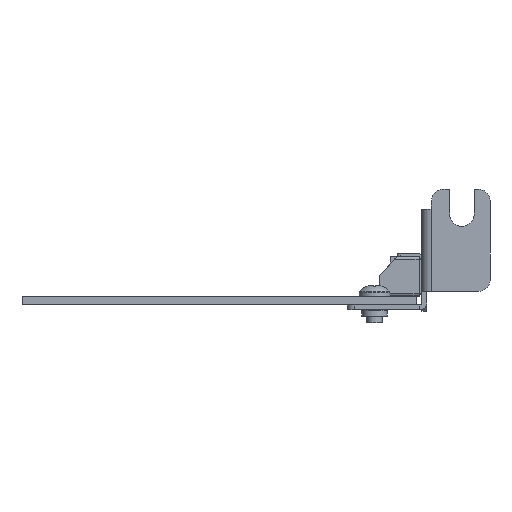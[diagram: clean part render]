
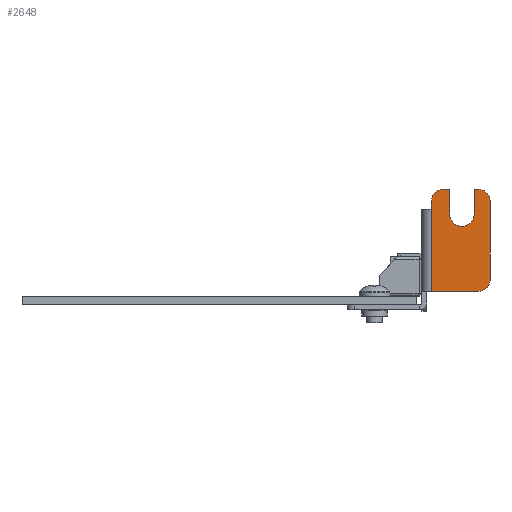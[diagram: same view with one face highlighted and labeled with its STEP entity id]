
A CAD part, front view. The second image highlights one B-rep face of the part: STEP entity #2648.
In plain terms, the highlighted planar face has unit normal (0, -1, 0).
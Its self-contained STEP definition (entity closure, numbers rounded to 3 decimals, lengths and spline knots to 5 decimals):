
#1116=CARTESIAN_POINT('',(0.445,-2.537,0.176));
#1117=DIRECTION('',(0.,-1.,0.));
#1118=DIRECTION('',(0.,0.,-1.));
#1119=AXIS2_PLACEMENT_3D('',#1116,#1117,#1118);
#1175=CARTESIAN_POINT('',(0.189,-2.537,0.741));
#1176=DIRECTION('',(0.,-1.,0.));
#1177=DIRECTION('',(0.,0.,1.));
#1178=AXIS2_PLACEMENT_3D('',#1175,#1176,#1177);
#1184=DIRECTION('',(-1.,0.,0.));
#1185=VECTOR('',#1184,0.049);
#1186=CARTESIAN_POINT('',(0.238,-2.537,0.821));
#1187=LINE('',#1186,#1185);
#1188=DIRECTION('',(-1.,0.,0.));
#1189=VECTOR('',#1188,0.033);
#1190=CARTESIAN_POINT('',(0.445,-2.537,0.821));
#1191=LINE('',#1190,#1189);
#1204=DIRECTION('',(-1.,0.,0.));
#1205=VECTOR('',#1204,0.336);
#1206=CARTESIAN_POINT('',(0.445,-2.537,0.096));
#1207=LINE('',#1206,#1205);
#1208=DIRECTION('',(0.,0.,-1.));
#1209=VECTOR('',#1208,0.061);
#1210=CARTESIAN_POINT('',(0.109,-2.537,0.741));
#1211=LINE('',#1210,#1209);
#1212=DIRECTION('',(0.,0.,-1.));
#1213=VECTOR('',#1212,0.175);
#1214=CARTESIAN_POINT('',(0.238,-2.537,0.821));
#1215=LINE('',#1214,#1213);
#1216=CARTESIAN_POINT('',(0.325,-2.537,0.646));
#1217=DIRECTION('',(0.,-1.,0.));
#1218=DIRECTION('',(-1.,0.,0.));
#1219=AXIS2_PLACEMENT_3D('',#1216,#1217,#1218);
#1221=DIRECTION('',(0.,0.,-1.));
#1222=VECTOR('',#1221,0.175);
#1223=CARTESIAN_POINT('',(0.412,-2.537,0.821));
#1224=LINE('',#1223,#1222);
#1225=DIRECTION('',(0.,0.,-1.));
#1226=VECTOR('',#1225,0.565);
#1227=CARTESIAN_POINT('',(0.525,-2.537,0.741));
#1228=LINE('',#1227,#1226);
#1229=DIRECTION('',(0.,0.,-1.));
#1230=VECTOR('',#1229,0.584);
#1231=CARTESIAN_POINT('',(0.109,-2.537,0.68));
#1232=LINE('',#1231,#1230);
#2137=CARTESIAN_POINT('',(0.445,-2.537,0.741));
#2138=DIRECTION('',(0.,-1.,0.));
#2139=DIRECTION('',(1.,0.,0.));
#2140=AXIS2_PLACEMENT_3D('',#2137,#2138,#2139);
#2171=CARTESIAN_POINT('',(0.412,-2.537,0.821));
#2172=CARTESIAN_POINT('',(0.412,-2.537,0.646));
#2173=VERTEX_POINT('',#2171);
#2174=VERTEX_POINT('',#2172);
#2175=CARTESIAN_POINT('',(0.238,-2.537,0.646));
#2176=VERTEX_POINT('',#2175);
#2177=CARTESIAN_POINT('',(0.238,-2.537,0.821));
#2178=VERTEX_POINT('',#2177);
#2203=CARTESIAN_POINT('',(0.109,-2.537,0.68));
#2205=VERTEX_POINT('',#2203);
#2208=CARTESIAN_POINT('',(0.109,-2.537,0.741));
#2210=VERTEX_POINT('',#2208);
#2213=CARTESIAN_POINT('',(0.189,-2.537,0.821));
#2214=VERTEX_POINT('',#2213);
#2236=CARTESIAN_POINT('',(0.109,-2.537,0.096));
#2238=VERTEX_POINT('',#2236);
#2239=CARTESIAN_POINT('',(0.445,-2.537,0.096));
#2241=VERTEX_POINT('',#2239);
#2243=CARTESIAN_POINT('',(0.525,-2.537,0.176));
#2244=VERTEX_POINT('',#2243);
#2247=CARTESIAN_POINT('',(0.525,-2.537,0.741));
#2249=VERTEX_POINT('',#2247);
#2251=CARTESIAN_POINT('',(0.445,-2.537,0.821));
#2252=VERTEX_POINT('',#2251);
#2624=CARTESIAN_POINT('',(0.525,-2.537,0.821));
#2625=DIRECTION('',(0.,1.,0.));
#2626=DIRECTION('',(-1.,0.,0.));
#2627=AXIS2_PLACEMENT_3D('',#2624,#2625,#2626);
#2628=PLANE('',#2627);
#2629=ORIENTED_EDGE('',*,*,#2498,.F.);
#2630=ORIENTED_EDGE('',*,*,#2519,.T.);
#2632=ORIENTED_EDGE('',*,*,#2631,.F.);
#2633=ORIENTED_EDGE('',*,*,#2560,.F.);
#2634=ORIENTED_EDGE('',*,*,#2576,.F.);
#2635=ORIENTED_EDGE('',*,*,#2590,.F.);
#2636=ORIENTED_EDGE('',*,*,#2615,.T.);
#2638=ORIENTED_EDGE('',*,*,#2637,.T.);
#2640=ORIENTED_EDGE('',*,*,#2639,.F.);
#2641=ORIENTED_EDGE('',*,*,#2602,.F.);
#2643=ORIENTED_EDGE('',*,*,#2642,.F.);
#2645=ORIENTED_EDGE('',*,*,#2644,.T.);
#2646=EDGE_LOOP('',(#2629,#2630,#2632,#2633,#2634,#2635,#2636,#2638,#2640,#2641,
#2643,#2645));
#2647=FACE_OUTER_BOUND('',#2646,.F.);
#2648=ADVANCED_FACE('',(#2647),#2628,.F.);
#1120=CIRCLE('',#1119,0.08);
#1179=CIRCLE('',#1178,0.08);
#1220=CIRCLE('',#1219,0.087);
#2141=CIRCLE('',#2140,0.08);
#2498=EDGE_CURVE('',#2241,#2244,#1120,.T.);
#2519=EDGE_CURVE('',#2241,#2238,#1207,.T.);
#2560=EDGE_CURVE('',#2210,#2205,#1211,.T.);
#2576=EDGE_CURVE('',#2214,#2210,#1179,.T.);
#2590=EDGE_CURVE('',#2178,#2214,#1187,.T.);
#2602=EDGE_CURVE('',#2252,#2173,#1191,.T.);
#2615=EDGE_CURVE('',#2178,#2176,#1215,.T.);
#2631=EDGE_CURVE('',#2205,#2238,#1232,.T.);
#2637=EDGE_CURVE('',#2176,#2174,#1220,.T.);
#2639=EDGE_CURVE('',#2173,#2174,#1224,.T.);
#2642=EDGE_CURVE('',#2249,#2252,#2141,.T.);
#2644=EDGE_CURVE('',#2249,#2244,#1228,.T.);
